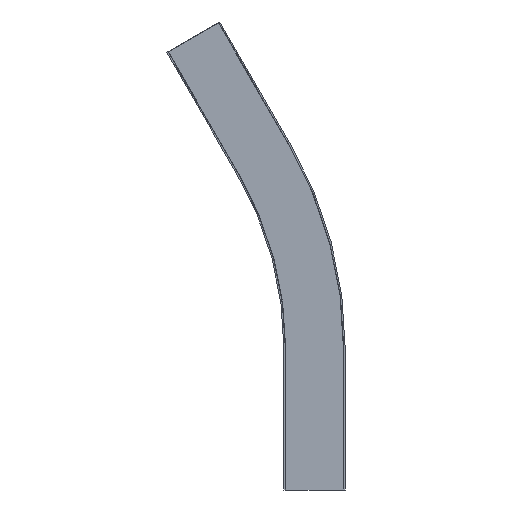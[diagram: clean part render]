
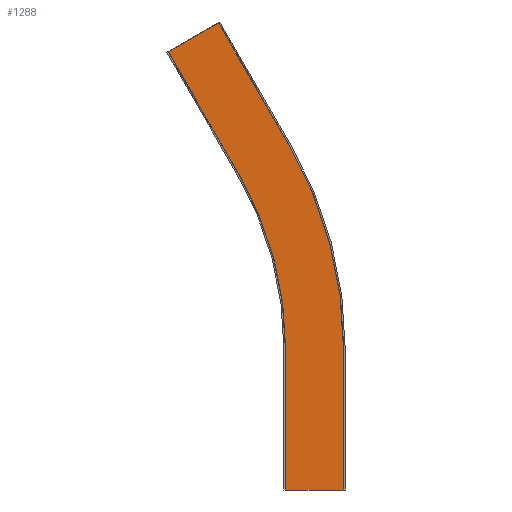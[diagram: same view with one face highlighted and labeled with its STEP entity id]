
A CAD part, front view. The second image highlights one B-rep face of the part: STEP entity #1288.
In plain terms, the highlighted planar face has unit normal (0, -1, 0).
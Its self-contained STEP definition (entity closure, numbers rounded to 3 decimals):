
#23 = DIRECTION ( 'NONE',  ( 0., -1., 0. ) ) ;
#121 = EDGE_CURVE ( 'NONE', #1834, #2598, #2056, .T. ) ;
#154 = VERTEX_POINT ( 'NONE', #1044 ) ;
#189 = VECTOR ( 'NONE', #762, 1000. ) ;
#206 = ORIENTED_EDGE ( 'NONE', *, *, #1211, .T. ) ;
#227 = VECTOR ( 'NONE', #1216, 1000. ) ;
#336 = ORIENTED_EDGE ( 'NONE', *, *, #967, .F. ) ;
#380 = CARTESIAN_POINT ( 'NONE',  ( -155.134, -42., 464.579 ) ) ;
#392 = CARTESIAN_POINT ( 'NONE',  ( -27.046, -42., 365.325 ) ) ;
#418 = CARTESIAN_POINT ( 'NONE',  ( -30.65, -42., 150. ) ) ;
#502 = EDGE_CURVE ( 'NONE', #1852, #1247, #2432, .T. ) ;
#510 = DIRECTION ( 'NONE',  ( -0.5, 0., 0.866 ) ) ;
#520 = ORIENTED_EDGE ( 'NONE', *, *, #1886, .T. ) ;
#527 = CARTESIAN_POINT ( 'NONE',  ( -30.65, -42., 150. ) ) ;
#539 = PLANE ( 'NONE',  #2750 ) ;
#545 = CARTESIAN_POINT ( 'NONE',  ( -155.134, -42., 464.579 ) ) ;
#580 = ORIENTED_EDGE ( 'NONE', *, *, #2684, .T. ) ;
#667 = CARTESIAN_POINT ( 'NONE',  ( -30.65, -42., 0. ) ) ;
#686 = VECTOR ( 'NONE', #878, 1000. ) ;
#717 = VERTEX_POINT ( 'NONE', #392 ) ;
#720 = AXIS2_PLACEMENT_3D ( 'NONE', #2258, #832, #2956 ) ;
#762 = DIRECTION ( 'NONE',  ( -0.5, 0., 0.866 ) ) ;
#832 = DIRECTION ( 'NONE',  ( 0., -1., 0. ) ) ;
#878 = DIRECTION ( 'NONE',  ( 0., 0., -1. ) ) ;
#930 = CARTESIAN_POINT ( 'NONE',  ( 30.65, -42., 150. ) ) ;
#943 = DIRECTION ( 'NONE',  ( 0., 0., -1. ) ) ;
#967 = EDGE_CURVE ( 'NONE', #154, #1834, #3068, .T. ) ;
#1044 = CARTESIAN_POINT ( 'NONE',  ( 30.65, -42., 150. ) ) ;
#1049 = VECTOR ( 'NONE', #943, 1000. ) ;
#1058 = DIRECTION ( 'NONE',  ( -0.866, 0., -0.5 ) ) ;
#1211 = EDGE_CURVE ( 'Edge42', #717, #1853, #2158, .T. ) ;
#1216 = DIRECTION ( 'NONE',  ( -1., 0., 0. ) ) ;
#1236 = EDGE_CURVE ( 'NONE', #1247, #1534, #2795, .T. ) ;
#1238 = FACE_OUTER_BOUND ( 'NONE', #2562, .T. ) ;
#1247 = VERTEX_POINT ( 'NONE', #2443 ) ;
#1288 = ADVANCED_FACE ( 'NONE', ( #1238 ), #539, .T. ) ;
#1486 = AXIS2_PLACEMENT_3D ( 'NONE', #1845, #2073, #2104 ) ;
#1492 = CIRCLE ( 'NONE', #1486, 430.65 ) ;
#1534 = VERTEX_POINT ( 'NONE', #380 ) ;
#1601 = VECTOR ( 'NONE', #1058, 1000. ) ;
#1756 = CARTESIAN_POINT ( 'NONE',  ( -102.046, -42., 495.229 ) ) ;
#1834 = VERTEX_POINT ( 'NONE', #2943 ) ;
#1845 = CARTESIAN_POINT ( 'NONE',  ( -400., -42., 150. ) ) ;
#1852 = VERTEX_POINT ( 'NONE', #1988 ) ;
#1853 = VERTEX_POINT ( 'NONE', #1756 ) ;
#1886 = EDGE_CURVE ( 'NONE', #1853, #1534, #2233, .T. ) ;
#1960 = ORIENTED_EDGE ( 'NONE', *, *, #1236, .F. ) ;
#1961 = CARTESIAN_POINT ( 'NONE',  ( -27.046, -42., 365.325 ) ) ;
#1988 = CARTESIAN_POINT ( 'NONE',  ( -30.65, -42., 150. ) ) ;
#2056 = LINE ( 'NONE', #2431, #227 ) ;
#2073 = DIRECTION ( 'NONE',  ( 0., -1., 0. ) ) ;
#2104 = DIRECTION ( 'NONE',  ( 0., 0., -1. ) ) ;
#2158 = LINE ( 'NONE', #1961, #2909 ) ;
#2233 = LINE ( 'NONE', #545, #1601 ) ;
#2258 = CARTESIAN_POINT ( 'NONE',  ( -400., -42., 150. ) ) ;
#2337 = LINE ( 'NONE', #418, #686 ) ;
#2431 = CARTESIAN_POINT ( 'NONE',  ( -30.65, -42., 0. ) ) ;
#2432 = CIRCLE ( 'NONE', #720, 369.35 ) ;
#2443 = CARTESIAN_POINT ( 'NONE',  ( -80.134, -42., 334.675 ) ) ;
#2562 = EDGE_LOOP ( 'NONE', ( #3048, #336, #580, #206, #520, #1960, #2817, #3118 ) ) ;
#2598 = VERTEX_POINT ( 'NONE', #667 ) ;
#2607 = EDGE_CURVE ( 'NONE', #1852, #2598, #2337, .T. ) ;
#2684 = EDGE_CURVE ( 'Edge18', #154, #717, #1492, .T. ) ;
#2708 = CARTESIAN_POINT ( 'NONE',  ( -80.134, -42., 334.675 ) ) ;
#2750 = AXIS2_PLACEMENT_3D ( 'NONE', #527, #23, #2927 ) ;
#2795 = LINE ( 'NONE', #2708, #189 ) ;
#2817 = ORIENTED_EDGE ( 'NONE', *, *, #502, .F. ) ;
#2909 = VECTOR ( 'NONE', #510, 1000. ) ;
#2927 = DIRECTION ( 'NONE',  ( 1., 0., 0. ) ) ;
#2943 = CARTESIAN_POINT ( 'NONE',  ( 30.65, -42., 0. ) ) ;
#2956 = DIRECTION ( 'NONE',  ( 0., 0., -1. ) ) ;
#3048 = ORIENTED_EDGE ( 'NONE', *, *, #121, .F. ) ;
#3068 = LINE ( 'NONE', #930, #1049 ) ;
#3118 = ORIENTED_EDGE ( 'NONE', *, *, #2607, .T. ) ;
